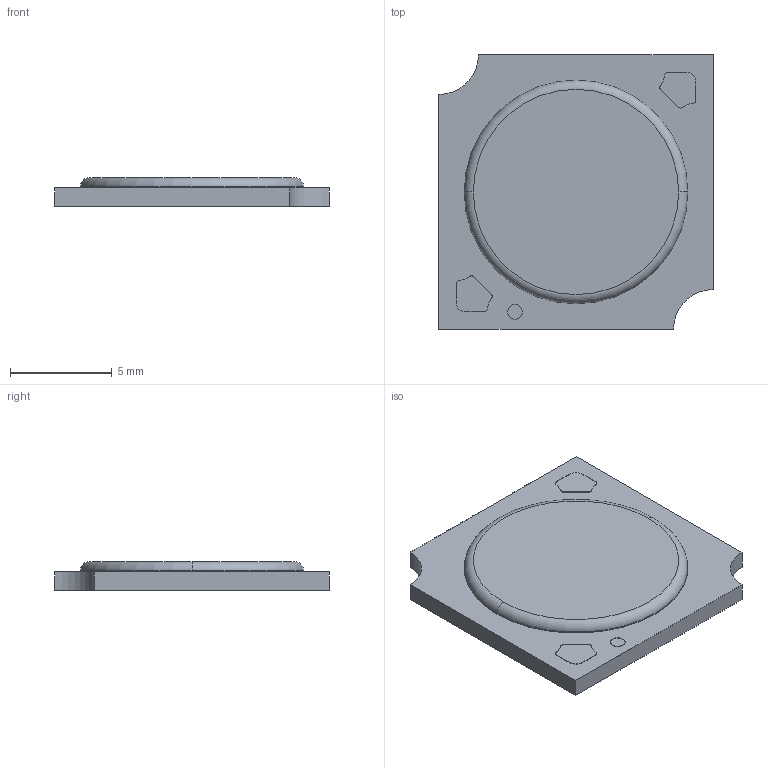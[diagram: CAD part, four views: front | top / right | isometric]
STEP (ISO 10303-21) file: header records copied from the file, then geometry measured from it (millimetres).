
FILE_DESCRIPTION((''),'2;1');
FILE_NAME('16208806_SLE-G7-LES09-MODUL','2018-08-22T15:57:21',('bernhard.fink'),(''),'CREO PARAMETRIC BY PTC INC, 2017380','CREO PARAMETRIC BY PTC INC, 2017380','');
FILE_SCHEMA(('AUTOMOTIVE_DESIGN { 1 0 10303 214 1 1 1 1 }'));
Length unit declared in the file: millimetre
Products named in the file (1): 16208806_SLE-G7-LES09-MODUL
Bounding box: 13.5 x 13.5 x 1.4 mm (x, y, z)
Volume: 204.8 mm3; surface area: 410.4 mm2
Topology: 1 solids, 1 shells, 40 faces, 104 edges, 70 vertices
Faces by surface type: cylinder 22, plane 16, torus 2
Entity records: 2270 total; most frequent: CARTESIAN_POINT 246, DIRECTION 224, ORIENTED_EDGE 208, PRESENTATION_STYLE_ASSIGNMENT 138, STYLED_ITEM 105, CURVE_STYLE 104, EDGE_CURVE 104, AXIS2_PLACEMENT_3D 86
